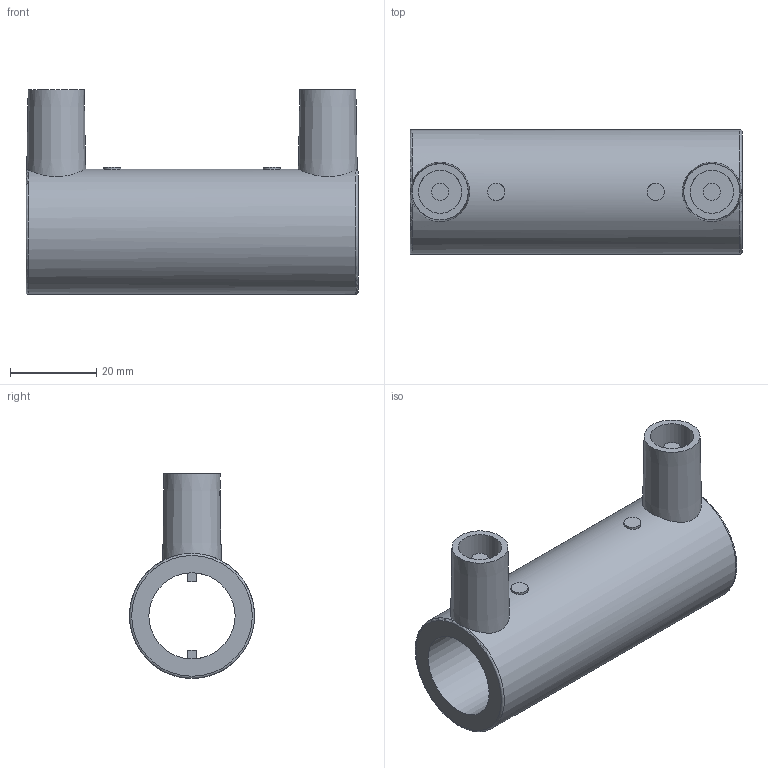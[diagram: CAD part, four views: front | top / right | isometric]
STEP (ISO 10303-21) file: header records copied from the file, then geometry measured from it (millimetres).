
FILE_DESCRIPTION(/* description */ ('Unknown'),/* implementation_level */ '2;1');
FILE_NAME(/* name */ 'MP020C.PF',/* time_stamp */ '2021-07-09T10:49:27+02:00',/* author */ ('Unknown'),/* organization */ ('Unknown'),/* preprocessor_version */ 'ST-DEVELOPER v16.7',/* originating_system */ 'Solid Edge',/* authorisation */ 'Unknown');
FILE_SCHEMA (('AUTOMOTIVE_DESIGN {1 0 10303 214 3 1 1}'));
Length unit declared in the file: millimetre
Products named in the file (1): MP020C.PF
Bounding box: 77 x 28.95 x 47.5 mm (x, y, z)
Volume: 29641.2 mm3; surface area: 15546.3 mm2
Topology: 1 solids, 1 shells, 36 faces, 81 edges, 54 vertices
Faces by surface type: plane 20, cylinder 12, torus 2, cone 2
Full cylindrical faces by diameter (mm): 4 x4, 10 x2, 20 x1, 29 x1
Entity records: 964 total; most frequent: CARTESIAN_POINT 207, DIRECTION 158, ORIENTED_EDGE 120, AXIS2_PLACEMENT_3D 67, EDGE_CURVE 60, EDGE_LOOP 58, FACE_BOUND 58, VERTEX_POINT 46
